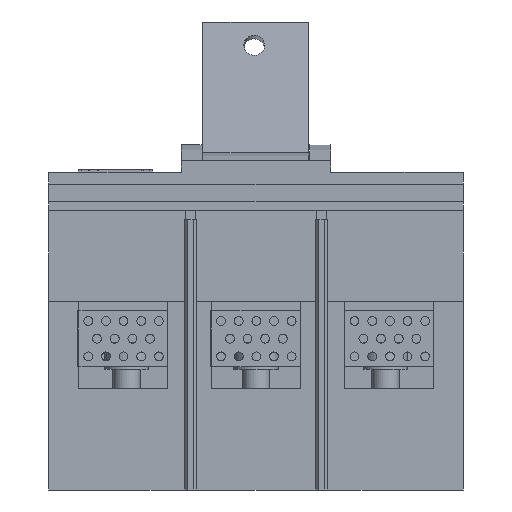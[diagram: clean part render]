
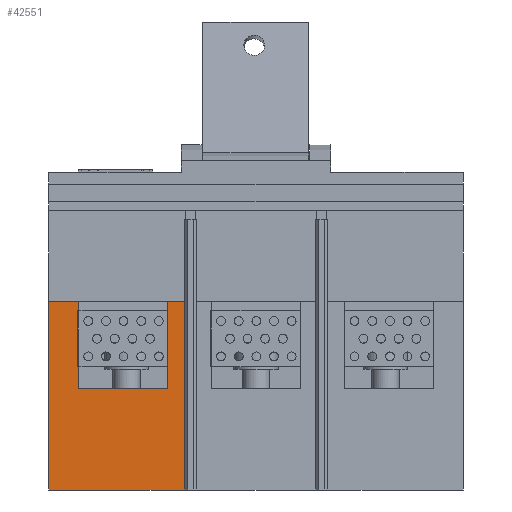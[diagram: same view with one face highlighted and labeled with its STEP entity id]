
A CAD part, front view. The second image highlights one B-rep face of the part: STEP entity #42551.
In plain terms, the highlighted planar face has unit normal (0, -1, 0).
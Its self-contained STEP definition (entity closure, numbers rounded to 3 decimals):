
#39609 = PLANE('',#39610);
#39610 = AXIS2_PLACEMENT_3D('',#39611,#39612,#39613);
#39611 = CARTESIAN_POINT('',(70.5,129.,0.));
#39612 = DIRECTION('',(-0.,-0.,-1.));
#39613 = DIRECTION('',(-1.,0.,0.));
#39637 = PLANE('',#39638);
#39638 = AXIS2_PLACEMENT_3D('',#39639,#39640,#39641);
#39639 = CARTESIAN_POINT('',(0.,128.993,51.486));
#39640 = DIRECTION('',(-1.,-0.,-0.));
#39641 = DIRECTION('',(0.,0.,-1.));
#39664 = PLANE('',#39665);
#39665 = AXIS2_PLACEMENT_3D('',#39666,#39667,#39668);
#39666 = CARTESIAN_POINT('',(65.777,144.424,64.));
#39667 = DIRECTION('',(-0.,-0.,-1.));
#39668 = DIRECTION('',(-1.,0.,0.));
#39810 = VERTEX_POINT('',#39811);
#39811 = CARTESIAN_POINT('',(0.,0.,0.));
#40725 = VERTEX_POINT('',#40726);
#40726 = CARTESIAN_POINT('',(46.4,0.,0.));
#40740 = PLANE('',#40741);
#40741 = AXIS2_PLACEMENT_3D('',#40742,#40743,#40744);
#40742 = CARTESIAN_POINT('',(46.4,2.8,95.));
#40743 = DIRECTION('',(-1.,0.,0.));
#40744 = DIRECTION('',(0.,-1.,0.));
#40752 = EDGE_CURVE('',#40725,#39810,#40753,.T.);
#40753 = SURFACE_CURVE('',#40754,(#40758,#40765),.PCURVE_S1.);
#40754 = LINE('',#40755,#40756);
#40755 = CARTESIAN_POINT('',(141.,0.,0.));
#40756 = VECTOR('',#40757,1.);
#40757 = DIRECTION('',(-1.,0.,0.));
#40758 = PCURVE('',#39609,#40759);
#40759 = DEFINITIONAL_REPRESENTATION('',(#40760),#40764);
#40760 = LINE('',#40761,#40762);
#40761 = CARTESIAN_POINT('',(-70.5,-129.));
#40762 = VECTOR('',#40763,1.);
#40763 = DIRECTION('',(1.,0.));
#40764 = ( GEOMETRIC_REPRESENTATION_CONTEXT(2) 
PARAMETRIC_REPRESENTATION_CONTEXT() REPRESENTATION_CONTEXT('2D SPACE',''
  ) );
#40765 = PCURVE('',#40766,#40771);
#40766 = PLANE('',#40767);
#40767 = AXIS2_PLACEMENT_3D('',#40768,#40769,#40770);
#40768 = CARTESIAN_POINT('',(141.,0.,0.));
#40769 = DIRECTION('',(0.,-1.,0.));
#40770 = DIRECTION('',(-1.,0.,0.));
#40771 = DEFINITIONAL_REPRESENTATION('',(#40772),#40776);
#40772 = LINE('',#40773,#40774);
#40773 = CARTESIAN_POINT('',(0.,-0.));
#40774 = VECTOR('',#40775,1.);
#40775 = DIRECTION('',(1.,0.));
#40776 = ( GEOMETRIC_REPRESENTATION_CONTEXT(2) 
PARAMETRIC_REPRESENTATION_CONTEXT() REPRESENTATION_CONTEXT('2D SPACE',''
  ) );
#42065 = VERTEX_POINT('',#42066);
#42066 = CARTESIAN_POINT('',(46.4,0.,64.));
#42085 = EDGE_CURVE('',#42086,#42065,#42088,.T.);
#42086 = VERTEX_POINT('',#42087);
#42087 = CARTESIAN_POINT('',(40.5,0.,64.));
#42088 = SURFACE_CURVE('',#42089,(#42093,#42099),.PCURVE_S1.);
#42089 = LINE('',#42090,#42091);
#42090 = CARTESIAN_POINT('',(103.388,0.,64.));
#42091 = VECTOR('',#42092,1.);
#42092 = DIRECTION('',(1.,0.,-0.));
#42093 = PCURVE('',#39664,#42094);
#42094 = DEFINITIONAL_REPRESENTATION('',(#42095),#42098);
#42095 = B_SPLINE_CURVE_WITH_KNOTS('',1,(#42096,#42097),.UNSPECIFIED.,
  .F.,.F.,(2,2),(-103.388,-56.988),.PIECEWISE_BEZIER_KNOTS.);
#42096 = CARTESIAN_POINT('',(65.777,-144.424));
#42097 = CARTESIAN_POINT('',(19.377,-144.424));
#42098 = ( GEOMETRIC_REPRESENTATION_CONTEXT(2) 
PARAMETRIC_REPRESENTATION_CONTEXT() REPRESENTATION_CONTEXT('2D SPACE',''
  ) );
#42099 = PCURVE('',#40766,#42100);
#42100 = DEFINITIONAL_REPRESENTATION('',(#42101),#42104);
#42101 = B_SPLINE_CURVE_WITH_KNOTS('',1,(#42102,#42103),.UNSPECIFIED.,
  .F.,.F.,(2,2),(-103.388,-56.988),.PIECEWISE_BEZIER_KNOTS.);
#42102 = CARTESIAN_POINT('',(141.,-64.));
#42103 = CARTESIAN_POINT('',(94.6,-64.));
#42104 = ( GEOMETRIC_REPRESENTATION_CONTEXT(2) 
PARAMETRIC_REPRESENTATION_CONTEXT() REPRESENTATION_CONTEXT('2D SPACE',''
  ) );
#42122 = PLANE('',#42123);
#42123 = AXIS2_PLACEMENT_3D('',#42124,#42125,#42126);
#42124 = CARTESIAN_POINT('',(40.5,0.,64.));
#42125 = DIRECTION('',(-1.,0.,0.));
#42126 = DIRECTION('',(0.,0.,-1.));
#42163 = VERTEX_POINT('',#42164);
#42164 = CARTESIAN_POINT('',(10.,0.,64.));
#42178 = PLANE('',#42179);
#42179 = AXIS2_PLACEMENT_3D('',#42180,#42181,#42182);
#42180 = CARTESIAN_POINT('',(10.,0.,34.5));
#42181 = DIRECTION('',(1.,0.,0.));
#42182 = DIRECTION('',(0.,0.,1.));
#42190 = EDGE_CURVE('',#42191,#42163,#42193,.T.);
#42191 = VERTEX_POINT('',#42192);
#42192 = CARTESIAN_POINT('',(0.,0.,64.));
#42193 = SURFACE_CURVE('',#42194,(#42198,#42204),.PCURVE_S1.);
#42194 = LINE('',#42195,#42196);
#42195 = CARTESIAN_POINT('',(103.388,0.,64.));
#42196 = VECTOR('',#42197,1.);
#42197 = DIRECTION('',(1.,0.,-0.));
#42198 = PCURVE('',#39664,#42199);
#42199 = DEFINITIONAL_REPRESENTATION('',(#42200),#42203);
#42200 = B_SPLINE_CURVE_WITH_KNOTS('',1,(#42201,#42202),.UNSPECIFIED.,
  .F.,.F.,(2,2),(-103.388,-56.988),.PIECEWISE_BEZIER_KNOTS.);
#42201 = CARTESIAN_POINT('',(65.777,-144.424));
#42202 = CARTESIAN_POINT('',(19.377,-144.424));
#42203 = ( GEOMETRIC_REPRESENTATION_CONTEXT(2) 
PARAMETRIC_REPRESENTATION_CONTEXT() REPRESENTATION_CONTEXT('2D SPACE',''
  ) );
#42204 = PCURVE('',#40766,#42205);
#42205 = DEFINITIONAL_REPRESENTATION('',(#42206),#42209);
#42206 = B_SPLINE_CURVE_WITH_KNOTS('',1,(#42207,#42208),.UNSPECIFIED.,
  .F.,.F.,(2,2),(-103.388,-56.988),.PIECEWISE_BEZIER_KNOTS.);
#42207 = CARTESIAN_POINT('',(141.,-64.));
#42208 = CARTESIAN_POINT('',(94.6,-64.));
#42209 = ( GEOMETRIC_REPRESENTATION_CONTEXT(2) 
PARAMETRIC_REPRESENTATION_CONTEXT() REPRESENTATION_CONTEXT('2D SPACE',''
  ) );
#42529 = EDGE_CURVE('',#39810,#42191,#42530,.T.);
#42530 = SURFACE_CURVE('',#42531,(#42535,#42542),.PCURVE_S1.);
#42531 = LINE('',#42532,#42533);
#42532 = CARTESIAN_POINT('',(0.,0.,0.));
#42533 = VECTOR('',#42534,1.);
#42534 = DIRECTION('',(0.,0.,1.));
#42535 = PCURVE('',#39637,#42536);
#42536 = DEFINITIONAL_REPRESENTATION('',(#42537),#42541);
#42537 = LINE('',#42538,#42539);
#42538 = CARTESIAN_POINT('',(51.486,128.993));
#42539 = VECTOR('',#42540,1.);
#42540 = DIRECTION('',(-1.,0.));
#42541 = ( GEOMETRIC_REPRESENTATION_CONTEXT(2) 
PARAMETRIC_REPRESENTATION_CONTEXT() REPRESENTATION_CONTEXT('2D SPACE',''
  ) );
#42542 = PCURVE('',#40766,#42543);
#42543 = DEFINITIONAL_REPRESENTATION('',(#42544),#42548);
#42544 = LINE('',#42545,#42546);
#42545 = CARTESIAN_POINT('',(141.,0.));
#42546 = VECTOR('',#42547,1.);
#42547 = DIRECTION('',(0.,-1.));
#42548 = ( GEOMETRIC_REPRESENTATION_CONTEXT(2) 
PARAMETRIC_REPRESENTATION_CONTEXT() REPRESENTATION_CONTEXT('2D SPACE',''
  ) );
#42551 = ADVANCED_FACE('',(#42552),#40766,.T.);
#42552 = FACE_BOUND('',#42553,.T.);
#42553 = EDGE_LOOP('',(#42554,#42555,#42576,#42577,#42600,#42628,#42649,
    #42650));
#42554 = ORIENTED_EDGE('',*,*,#40752,.F.);
#42555 = ORIENTED_EDGE('',*,*,#42556,.F.);
#42556 = EDGE_CURVE('',#42065,#40725,#42557,.T.);
#42557 = SURFACE_CURVE('',#42558,(#42562,#42569),.PCURVE_S1.);
#42558 = LINE('',#42559,#42560);
#42559 = CARTESIAN_POINT('',(46.4,0.,95.));
#42560 = VECTOR('',#42561,1.);
#42561 = DIRECTION('',(-0.,-0.,-1.));
#42562 = PCURVE('',#40766,#42563);
#42563 = DEFINITIONAL_REPRESENTATION('',(#42564),#42568);
#42564 = LINE('',#42565,#42566);
#42565 = CARTESIAN_POINT('',(94.6,-95.));
#42566 = VECTOR('',#42567,1.);
#42567 = DIRECTION('',(0.,1.));
#42568 = ( GEOMETRIC_REPRESENTATION_CONTEXT(2) 
PARAMETRIC_REPRESENTATION_CONTEXT() REPRESENTATION_CONTEXT('2D SPACE',''
  ) );
#42569 = PCURVE('',#40740,#42570);
#42570 = DEFINITIONAL_REPRESENTATION('',(#42571),#42575);
#42571 = LINE('',#42572,#42573);
#42572 = CARTESIAN_POINT('',(2.8,0.));
#42573 = VECTOR('',#42574,1.);
#42574 = DIRECTION('',(0.,-1.));
#42575 = ( GEOMETRIC_REPRESENTATION_CONTEXT(2) 
PARAMETRIC_REPRESENTATION_CONTEXT() REPRESENTATION_CONTEXT('2D SPACE',''
  ) );
#42576 = ORIENTED_EDGE('',*,*,#42085,.F.);
#42577 = ORIENTED_EDGE('',*,*,#42578,.T.);
#42578 = EDGE_CURVE('',#42086,#42579,#42581,.T.);
#42579 = VERTEX_POINT('',#42580);
#42580 = CARTESIAN_POINT('',(40.5,0.,34.5));
#42581 = SURFACE_CURVE('',#42582,(#42586,#42593),.PCURVE_S1.);
#42582 = LINE('',#42583,#42584);
#42583 = CARTESIAN_POINT('',(40.5,0.,64.));
#42584 = VECTOR('',#42585,1.);
#42585 = DIRECTION('',(0.,0.,-1.));
#42586 = PCURVE('',#40766,#42587);
#42587 = DEFINITIONAL_REPRESENTATION('',(#42588),#42592);
#42588 = LINE('',#42589,#42590);
#42589 = CARTESIAN_POINT('',(100.5,-64.));
#42590 = VECTOR('',#42591,1.);
#42591 = DIRECTION('',(0.,1.));
#42592 = ( GEOMETRIC_REPRESENTATION_CONTEXT(2) 
PARAMETRIC_REPRESENTATION_CONTEXT() REPRESENTATION_CONTEXT('2D SPACE',''
  ) );
#42593 = PCURVE('',#42122,#42594);
#42594 = DEFINITIONAL_REPRESENTATION('',(#42595),#42599);
#42595 = LINE('',#42596,#42597);
#42596 = CARTESIAN_POINT('',(0.,0.));
#42597 = VECTOR('',#42598,1.);
#42598 = DIRECTION('',(1.,0.));
#42599 = ( GEOMETRIC_REPRESENTATION_CONTEXT(2) 
PARAMETRIC_REPRESENTATION_CONTEXT() REPRESENTATION_CONTEXT('2D SPACE',''
  ) );
#42600 = ORIENTED_EDGE('',*,*,#42601,.T.);
#42601 = EDGE_CURVE('',#42579,#42602,#42604,.T.);
#42602 = VERTEX_POINT('',#42603);
#42603 = CARTESIAN_POINT('',(10.,0.,34.5));
#42604 = SURFACE_CURVE('',#42605,(#42609,#42616),.PCURVE_S1.);
#42605 = LINE('',#42606,#42607);
#42606 = CARTESIAN_POINT('',(40.5,0.,34.5));
#42607 = VECTOR('',#42608,1.);
#42608 = DIRECTION('',(-1.,0.,0.));
#42609 = PCURVE('',#40766,#42610);
#42610 = DEFINITIONAL_REPRESENTATION('',(#42611),#42615);
#42611 = LINE('',#42612,#42613);
#42612 = CARTESIAN_POINT('',(100.5,-34.5));
#42613 = VECTOR('',#42614,1.);
#42614 = DIRECTION('',(1.,0.));
#42615 = ( GEOMETRIC_REPRESENTATION_CONTEXT(2) 
PARAMETRIC_REPRESENTATION_CONTEXT() REPRESENTATION_CONTEXT('2D SPACE',''
  ) );
#42616 = PCURVE('',#42617,#42622);
#42617 = PLANE('',#42618);
#42618 = AXIS2_PLACEMENT_3D('',#42619,#42620,#42621);
#42619 = CARTESIAN_POINT('',(40.5,0.,34.5));
#42620 = DIRECTION('',(0.,0.,1.));
#42621 = DIRECTION('',(-1.,0.,0.));
#42622 = DEFINITIONAL_REPRESENTATION('',(#42623),#42627);
#42623 = LINE('',#42624,#42625);
#42624 = CARTESIAN_POINT('',(0.,0.));
#42625 = VECTOR('',#42626,1.);
#42626 = DIRECTION('',(1.,0.));
#42627 = ( GEOMETRIC_REPRESENTATION_CONTEXT(2) 
PARAMETRIC_REPRESENTATION_CONTEXT() REPRESENTATION_CONTEXT('2D SPACE',''
  ) );
#42628 = ORIENTED_EDGE('',*,*,#42629,.T.);
#42629 = EDGE_CURVE('',#42602,#42163,#42630,.T.);
#42630 = SURFACE_CURVE('',#42631,(#42635,#42642),.PCURVE_S1.);
#42631 = LINE('',#42632,#42633);
#42632 = CARTESIAN_POINT('',(10.,0.,34.5));
#42633 = VECTOR('',#42634,1.);
#42634 = DIRECTION('',(0.,0.,1.));
#42635 = PCURVE('',#40766,#42636);
#42636 = DEFINITIONAL_REPRESENTATION('',(#42637),#42641);
#42637 = LINE('',#42638,#42639);
#42638 = CARTESIAN_POINT('',(131.,-34.5));
#42639 = VECTOR('',#42640,1.);
#42640 = DIRECTION('',(0.,-1.));
#42641 = ( GEOMETRIC_REPRESENTATION_CONTEXT(2) 
PARAMETRIC_REPRESENTATION_CONTEXT() REPRESENTATION_CONTEXT('2D SPACE',''
  ) );
#42642 = PCURVE('',#42178,#42643);
#42643 = DEFINITIONAL_REPRESENTATION('',(#42644),#42648);
#42644 = LINE('',#42645,#42646);
#42645 = CARTESIAN_POINT('',(0.,0.));
#42646 = VECTOR('',#42647,1.);
#42647 = DIRECTION('',(1.,0.));
#42648 = ( GEOMETRIC_REPRESENTATION_CONTEXT(2) 
PARAMETRIC_REPRESENTATION_CONTEXT() REPRESENTATION_CONTEXT('2D SPACE',''
  ) );
#42649 = ORIENTED_EDGE('',*,*,#42190,.F.);
#42650 = ORIENTED_EDGE('',*,*,#42529,.F.);
